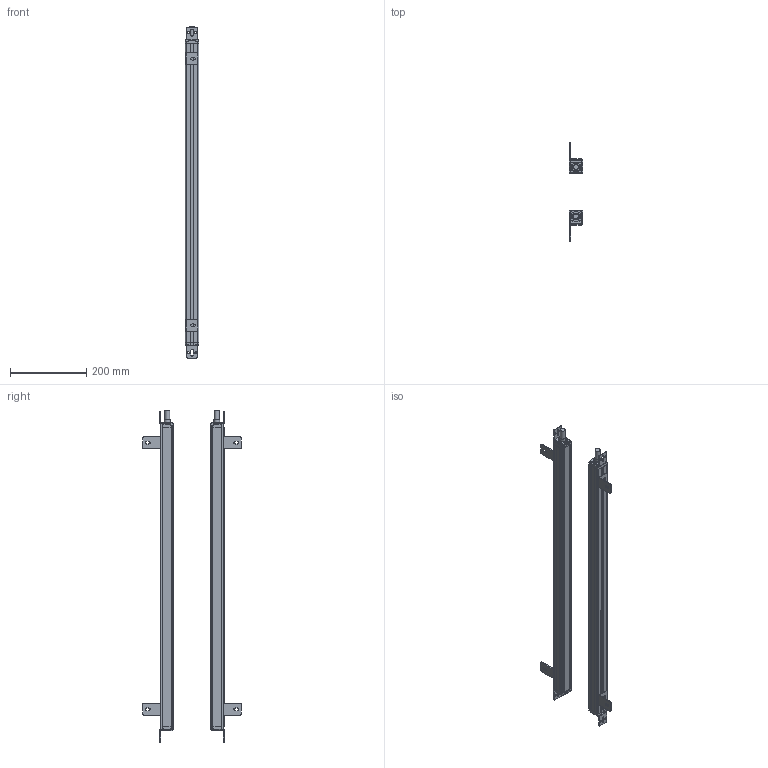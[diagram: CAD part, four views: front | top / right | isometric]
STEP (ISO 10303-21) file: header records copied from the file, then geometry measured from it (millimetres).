
FILE_DESCRIPTION(/* description */ (''),/* implementation_level */ '2;1');
FILE_NAME(/* name */ '3820_35X35_stp.stp',/* time_stamp */ '2023-09-18T16:24:10+08:00',/* author */ (''),/* organization */ (''),/* preprocessor_version */ 'ST-DEVELOPER v16.7',/* originating_system */ 'SIEMENS PLM Software NX 12.0',/* authorisation */ '');
FILE_SCHEMA (('AP203_CONFIGURATION_CONTROLLED_3D_DESIGN_OF_MECHANICAL_PARTS_AND_ASSEMBLIES_MIM_LF { 1 0 10303 403 2 1 2}'));
Length unit declared in the file: millimetre
Products named in the file (1): 3820_35X35_stp_stp
Bounding box: 35.41 x 258.01 x 871.6 mm (x, y, z)
Volume: 797207.2 mm3; surface area: 603365.2 mm2
Topology: 28 solids, 28 shells, 1182 faces, 3360 edges, 2260 vertices
Faces by surface type: plane 658, cylinder 464, cone 60
Full cylindrical faces by diameter (mm): 3.2 x8, 6 x24, 13 x2, 14.4 x2, 15 x2
Entity records: 39055 total; most frequent: DIRECTION 6832, CARTESIAN_POINT 6745, ORIENTED_EDGE 6612, EDGE_CURVE 3306, AXIS2_PLACEMENT_3D 2347, VERTEX_POINT 2244, LINE 2138, VECTOR 2138
